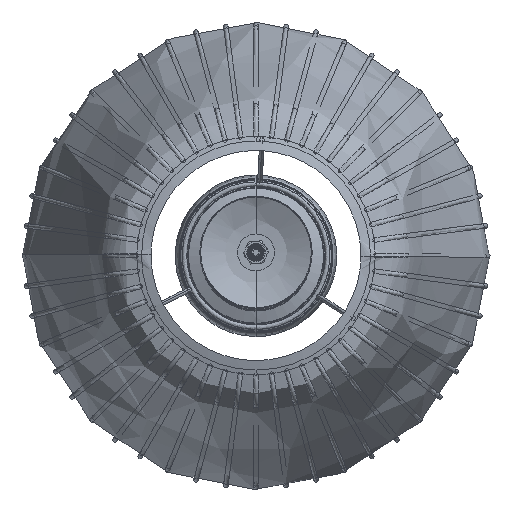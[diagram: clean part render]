
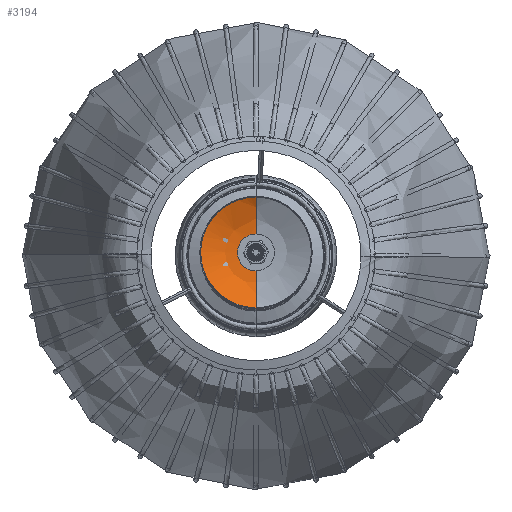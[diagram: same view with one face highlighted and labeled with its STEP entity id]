
A CAD part, top view. The second image highlights one B-rep face of the part: STEP entity #3194.
In plain terms, the highlighted free-form (B-spline) face has degree [2, 2] with [9, 9] control points.
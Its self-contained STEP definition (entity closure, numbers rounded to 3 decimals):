
#3194=ADVANCED_FACE('',(#4899),#26197,.T.);
#4899=FACE_OUTER_BOUND('',#6627,.T.);
#6627=EDGE_LOOP('',(#9416,#9417,#9418,#9419));
#9416=ORIENTED_EDGE('',*,*,#17451,.F.);
#9417=ORIENTED_EDGE('',*,*,#17452,.F.);
#9418=ORIENTED_EDGE('',*,*,#17453,.F.);
#9419=ORIENTED_EDGE('',*,*,#17450,.F.);
#17450=EDGE_CURVE('',#23697,#23698,#21579,.T.);
#17451=EDGE_CURVE('',#23699,#23697,#21580,.T.);
#17452=EDGE_CURVE('',#23700,#23699,#21581,.T.);
#17453=EDGE_CURVE('',#23698,#23700,#21582,.T.);
#21579=(
BOUNDED_CURVE()
B_SPLINE_CURVE(2,(#45104,#45105,#45106,#45107,#45108),.UNSPECIFIED.,.F.,
 .F.)
B_SPLINE_CURVE_WITH_KNOTS((3,2,3),(-62.832,-31.416,
0.),.UNSPECIFIED.)
CURVE()
GEOMETRIC_REPRESENTATION_ITEM()
RATIONAL_B_SPLINE_CURVE((1.,0.707,1.,0.707,1.))
REPRESENTATION_ITEM('')
);
#21580=(
BOUNDED_CURVE()
B_SPLINE_CURVE(2,(#45109,#45110,#45111),.UNSPECIFIED.,.F.,.F.)
B_SPLINE_CURVE_WITH_KNOTS((3,3),(-42.173,0.),.UNSPECIFIED.)
CURVE()
GEOMETRIC_REPRESENTATION_ITEM()
RATIONAL_B_SPLINE_CURVE((1.,0.959,1.))
REPRESENTATION_ITEM('')
);
#21581=(
BOUNDED_CURVE()
B_SPLINE_CURVE(2,(#45112,#45113,#45114,#45115,#45116),.UNSPECIFIED.,.F.,
 .F.)
B_SPLINE_CURVE_WITH_KNOTS((3,2,3),(-188.207,-94.104,
0.),.UNSPECIFIED.)
CURVE()
GEOMETRIC_REPRESENTATION_ITEM()
RATIONAL_B_SPLINE_CURVE((1.,0.707,1.,0.707,1.))
REPRESENTATION_ITEM('')
);
#21582=(
BOUNDED_CURVE()
B_SPLINE_CURVE(2,(#45117,#45118,#45119),.UNSPECIFIED.,.F.,.F.)
B_SPLINE_CURVE_WITH_KNOTS((3,3),(-42.173,0.),.UNSPECIFIED.)
CURVE()
GEOMETRIC_REPRESENTATION_ITEM()
RATIONAL_B_SPLINE_CURVE((1.,0.959,1.))
REPRESENTATION_ITEM('')
);
#23697=VERTEX_POINT('',#44996);
#23698=VERTEX_POINT('',#44997);
#23699=VERTEX_POINT('',#44998);
#23700=VERTEX_POINT('',#44999);
#26197=(
BOUNDED_SURFACE()
B_SPLINE_SURFACE(2,2,((#44371,#44372,#44373,#44374,#44375,#44376,#44377,
#44378,#44379),(#44380,#44381,#44382,#44383,#44384,#44385,#44386,#44387,
#44388),(#44389,#44390,#44391,#44392,#44393,#44394,#44395,#44396,#44397),
(#44398,#44399,#44400,#44401,#44402,#44403,#44404,#44405,#44406),(#44407,
#44408,#44409,#44410,#44411,#44412,#44413,#44414,#44415),(#44416,#44417,
#44418,#44419,#44420,#44421,#44422,#44423,#44424),(#44425,#44426,#44427,
#44428,#44429,#44430,#44431,#44432,#44433),(#44434,#44435,#44436,#44437,
#44438,#44439,#44440,#44441,#44442),(#44443,#44444,#44445,#44446,#44447,
#44448,#44449,#44450,#44451)),.UNSPECIFIED.,.F.,.F.,.F.)
B_SPLINE_SURFACE_WITH_KNOTS((3,2,2,2,3),(3,2,2,2,3),(0.,68.008,
136.016,204.025,272.033),(0.,31.416,
62.832,94.248,125.664),.UNSPECIFIED.)
GEOMETRIC_REPRESENTATION_ITEM()
RATIONAL_B_SPLINE_SURFACE(((1.,0.707,1.,0.707,1.,
0.707,1.,0.707,1.),(0.895,0.633,
0.895,0.633,0.895,0.633,
0.895,0.633,0.895),(1.,0.707,
1.,0.707,1.,0.707,1.,0.707,1.),(0.895,
0.633,0.895,0.633,0.895,
0.633,0.895,0.633,0.895),
(1.,0.707,1.,0.707,1.,0.707,1.,0.707,
1.),(0.895,0.633,0.895,0.633,
0.895,0.633,0.895,0.633,
0.895),(1.,0.707,1.,0.707,1.,0.707,
1.,0.707,1.),(0.895,0.633,0.895,
0.633,0.895,0.633,0.895,
0.633,0.895),(1.,0.707,1.,0.707,
1.,0.707,1.,0.707,1.)))
REPRESENTATION_ITEM('')
SURFACE()
);
#44371=CARTESIAN_POINT('',(3889.,0.,2378.872));
#44372=CARTESIAN_POINT('',(3889.,0.,2378.872));
#44373=CARTESIAN_POINT('',(3889.,0.,2378.872));
#44374=CARTESIAN_POINT('',(3889.,0.,2378.872));
#44375=CARTESIAN_POINT('',(3889.,0.,2378.872));
#44376=CARTESIAN_POINT('',(3889.,0.,2378.872));
#44377=CARTESIAN_POINT('',(3889.,0.,2378.872));
#44378=CARTESIAN_POINT('',(3889.,0.,2378.872));
#44379=CARTESIAN_POINT('',(3889.,0.,2378.872));
#44380=CARTESIAN_POINT('',(3924.267,0.,2368.928));
#44381=CARTESIAN_POINT('',(3924.267,35.267,2368.928));
#44382=CARTESIAN_POINT('',(3889.,35.267,2368.928));
#44383=CARTESIAN_POINT('',(3853.733,35.267,2368.928));
#44384=CARTESIAN_POINT('',(3853.733,0.,2368.928));
#44385=CARTESIAN_POINT('',(3853.733,-35.267,2368.928));
#44386=CARTESIAN_POINT('',(3889.,-35.267,2368.928));
#44387=CARTESIAN_POINT('',(3924.267,-35.267,2368.928));
#44388=CARTESIAN_POINT('',(3924.267,0.,2368.928));
#44389=CARTESIAN_POINT('',(3953.482,0.,2391.044));
#44390=CARTESIAN_POINT('',(3953.482,64.482,2391.044));
#44391=CARTESIAN_POINT('',(3889.,64.482,2391.044));
#44392=CARTESIAN_POINT('',(3824.518,64.482,2391.044));
#44393=CARTESIAN_POINT('',(3824.518,0.,2391.044));
#44394=CARTESIAN_POINT('',(3824.518,-64.482,2391.044));
#44395=CARTESIAN_POINT('',(3889.,-64.482,2391.044));
#44396=CARTESIAN_POINT('',(3953.482,-64.482,2391.044));
#44397=CARTESIAN_POINT('',(3953.482,0.,2391.044));
#44398=CARTESIAN_POINT('',(3982.697,0.,2413.161));
#44399=CARTESIAN_POINT('',(3982.697,93.697,2413.161));
#44400=CARTESIAN_POINT('',(3889.,93.697,2413.161));
#44401=CARTESIAN_POINT('',(3795.303,93.697,2413.161));
#44402=CARTESIAN_POINT('',(3795.303,0.,2413.161));
#44403=CARTESIAN_POINT('',(3795.303,-93.697,2413.161));
#44404=CARTESIAN_POINT('',(3889.,-93.697,2413.161));
#44405=CARTESIAN_POINT('',(3982.697,-93.697,2413.161));
#44406=CARTESIAN_POINT('',(3982.697,0.,2413.161));
#44407=CARTESIAN_POINT('',(3982.697,0.,2449.803));
#44408=CARTESIAN_POINT('',(3982.697,93.697,2449.803));
#44409=CARTESIAN_POINT('',(3889.,93.697,2449.803));
#44410=CARTESIAN_POINT('',(3795.303,93.697,2449.803));
#44411=CARTESIAN_POINT('',(3795.303,0.,2449.803));
#44412=CARTESIAN_POINT('',(3795.303,-93.697,2449.803));
#44413=CARTESIAN_POINT('',(3889.,-93.697,2449.803));
#44414=CARTESIAN_POINT('',(3982.697,-93.697,2449.803));
#44415=CARTESIAN_POINT('',(3982.697,0.,2449.803));
#44416=CARTESIAN_POINT('',(3982.697,0.,2486.445));
#44417=CARTESIAN_POINT('',(3982.697,93.697,2486.445));
#44418=CARTESIAN_POINT('',(3889.,93.697,2486.445));
#44419=CARTESIAN_POINT('',(3795.303,93.697,2486.445));
#44420=CARTESIAN_POINT('',(3795.303,0.,2486.445));
#44421=CARTESIAN_POINT('',(3795.303,-93.697,2486.445));
#44422=CARTESIAN_POINT('',(3889.,-93.697,2486.445));
#44423=CARTESIAN_POINT('',(3982.697,-93.697,2486.445));
#44424=CARTESIAN_POINT('',(3982.697,0.,2486.445));
#44425=CARTESIAN_POINT('',(3953.482,0.,2508.561));
#44426=CARTESIAN_POINT('',(3953.482,64.482,2508.561));
#44427=CARTESIAN_POINT('',(3889.,64.482,2508.561));
#44428=CARTESIAN_POINT('',(3824.518,64.482,2508.561));
#44429=CARTESIAN_POINT('',(3824.518,0.,2508.561));
#44430=CARTESIAN_POINT('',(3824.518,-64.482,2508.561));
#44431=CARTESIAN_POINT('',(3889.,-64.482,2508.561));
#44432=CARTESIAN_POINT('',(3953.482,-64.482,2508.561));
#44433=CARTESIAN_POINT('',(3953.482,0.,2508.561));
#44434=CARTESIAN_POINT('',(3924.267,0.,2530.678));
#44435=CARTESIAN_POINT('',(3924.267,35.267,2530.678));
#44436=CARTESIAN_POINT('',(3889.,35.267,2530.678));
#44437=CARTESIAN_POINT('',(3853.733,35.267,2530.678));
#44438=CARTESIAN_POINT('',(3853.733,0.,2530.678));
#44439=CARTESIAN_POINT('',(3853.733,-35.267,2530.678));
#44440=CARTESIAN_POINT('',(3889.,-35.267,2530.678));
#44441=CARTESIAN_POINT('',(3924.267,-35.267,2530.678));
#44442=CARTESIAN_POINT('',(3924.267,0.,2530.678));
#44443=CARTESIAN_POINT('',(3889.,0.,2520.734));
#44444=CARTESIAN_POINT('',(3889.,0.,2520.734));
#44445=CARTESIAN_POINT('',(3889.,0.,2520.734));
#44446=CARTESIAN_POINT('',(3889.,0.,2520.734));
#44447=CARTESIAN_POINT('',(3889.,0.,2520.734));
#44448=CARTESIAN_POINT('',(3889.,0.,2520.734));
#44449=CARTESIAN_POINT('',(3889.,0.,2520.734));
#44450=CARTESIAN_POINT('',(3889.,0.,2520.734));
#44451=CARTESIAN_POINT('',(3889.,0.,2520.734));
#44996=CARTESIAN_POINT('',(3889.,20.,2376.106));
#44997=CARTESIAN_POINT('',(3889.,-20.,2376.106));
#44998=CARTESIAN_POINT('',(3889.,59.908,2387.847));
#44999=CARTESIAN_POINT('',(3889.,-59.908,2387.847));
#45104=CARTESIAN_POINT('',(3889.,20.,2376.106));
#45105=CARTESIAN_POINT('',(3869.,20.,2376.106));
#45106=CARTESIAN_POINT('',(3869.,0.,2376.106));
#45107=CARTESIAN_POINT('',(3869.,-20.,2376.106));
#45108=CARTESIAN_POINT('',(3889.,-20.,2376.106));
#45109=CARTESIAN_POINT('',(3889.,59.908,2387.847));
#45110=CARTESIAN_POINT('',(3889.,41.681,2376.106));
#45111=CARTESIAN_POINT('',(3889.,20.,2376.106));
#45112=CARTESIAN_POINT('',(3889.,-59.908,2387.847));
#45113=CARTESIAN_POINT('',(3829.092,-59.908,2387.847));
#45114=CARTESIAN_POINT('',(3829.092,0.,2387.847));
#45115=CARTESIAN_POINT('',(3829.092,59.908,2387.847));
#45116=CARTESIAN_POINT('',(3889.,59.908,2387.847));
#45117=CARTESIAN_POINT('',(3889.,-20.,2376.106));
#45118=CARTESIAN_POINT('',(3889.,-41.681,2376.106));
#45119=CARTESIAN_POINT('',(3889.,-59.908,2387.847));
